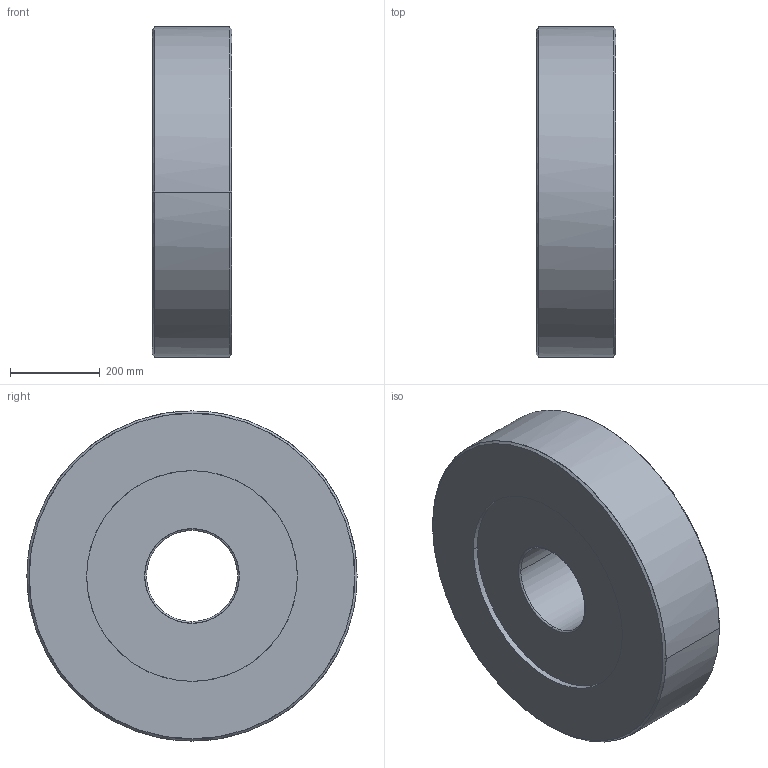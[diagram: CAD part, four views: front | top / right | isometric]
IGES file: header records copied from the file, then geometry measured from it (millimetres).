
Global section: native system: Kubotek KeyCreator; preprocessor: KCM Version 1.1.1442.0; author: KeyCreator User; organization: Self; date: 20170713.075405; units: inch
Bounding box: 177.8 x 736.6 x 736.6 mm (x, y, z)
Surface area: 1318047 mm2 (no closed solid volume)
Topology: 0 solids, 0 shells, 20 faces, 128 edges, 128 vertices
Faces by surface type: bspline 20
